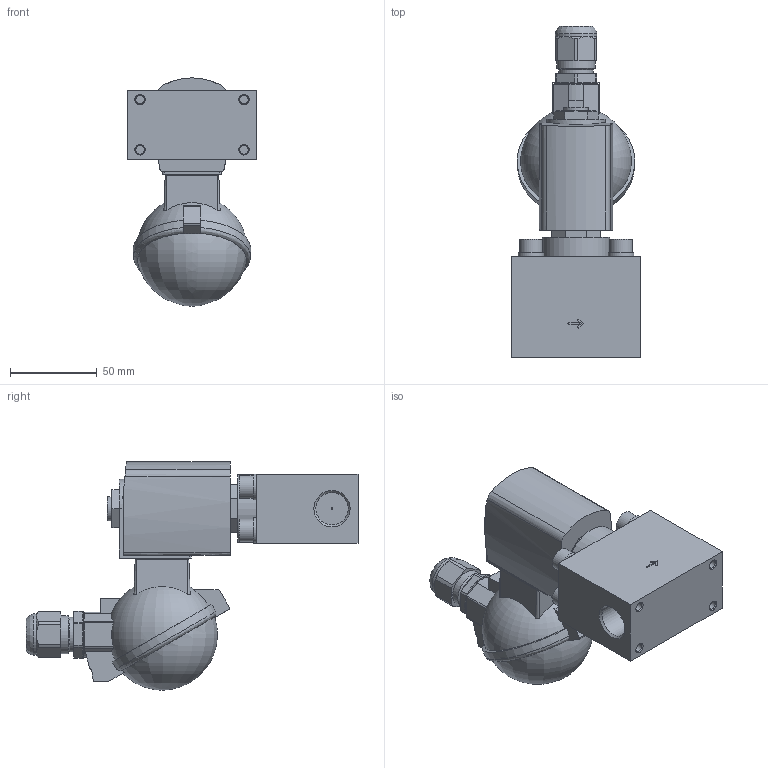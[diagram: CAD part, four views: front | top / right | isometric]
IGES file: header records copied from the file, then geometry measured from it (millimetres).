
Start section: Data from Parasolid IGES Translator 26.0.171, Copyright(c) 2006 Siemens PLM Software. All Rights Reserved.
Global section: file name: 6240-383899-2_2-way_solenoid_valve__pilot-controlled.igs; native system: By Siemens PLM Incorporated; preprocessor: XPlus GENERIC/IGES 26.0.171; author: Noname; organization: Noname; date: 20240510.124911; units: millimetre
Bounding box: 75 x 191.6 x 131.7 mm (x, y, z)
Surface area: 64464.2 mm2 (no closed solid volume)
Topology: 0 solids, 0 shells, 243 faces, 1219 edges, 1168 vertices
Faces by surface type: extrusion 144, revolution 99
